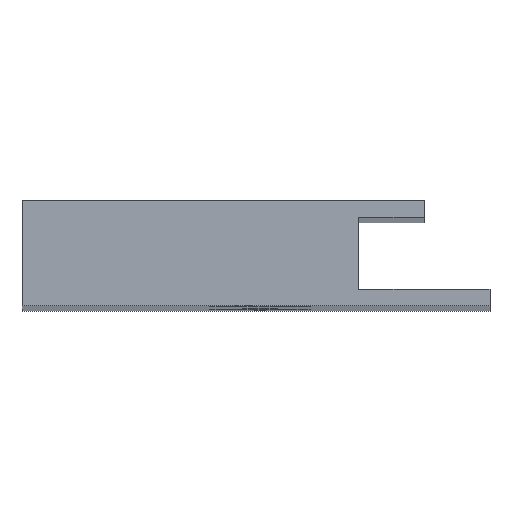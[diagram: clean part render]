
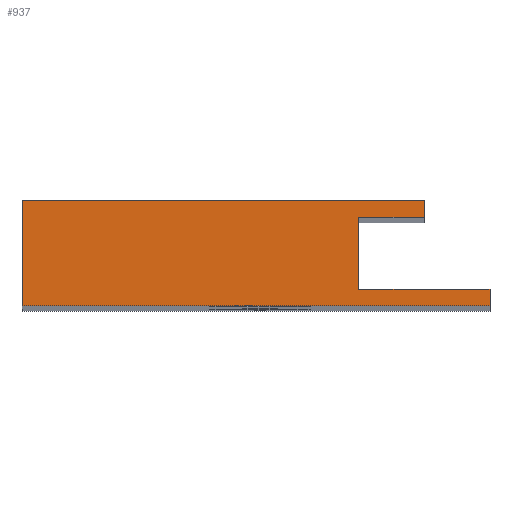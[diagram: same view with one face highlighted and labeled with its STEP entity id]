
A CAD part, top view. The second image highlights one B-rep face of the part: STEP entity #937.
In plain terms, the highlighted planar face has unit normal (0, 0, 1).
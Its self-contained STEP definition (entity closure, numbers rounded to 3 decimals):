
#41=DIRECTION('',(-1.,0.,0.));
#42=VECTOR('',#41,24.5);
#43=CARTESIAN_POINT('',(10.,2.,200.));
#44=LINE('',#43,#42);
#141=DIRECTION('',(1.,0.,0.));
#142=VECTOR('',#141,28.5);
#143=CARTESIAN_POINT('',(-14.5,-4.4,200.));
#144=LINE('',#143,#142);
#225=DIRECTION('',(0.,-1.,0.));
#226=VECTOR('',#225,6.4);
#227=CARTESIAN_POINT('',(-14.5,2.,200.));
#228=LINE('',#227,#226);
#229=DIRECTION('',(0.,1.,0.));
#230=VECTOR('',#229,1.);
#231=CARTESIAN_POINT('',(10.,1.,200.));
#232=LINE('',#231,#230);
#233=DIRECTION('',(1.,0.,0.));
#234=VECTOR('',#233,4.);
#235=CARTESIAN_POINT('',(6.,1.,200.));
#236=LINE('',#235,#234);
#237=DIRECTION('',(0.,1.,0.));
#238=VECTOR('',#237,4.4);
#239=CARTESIAN_POINT('',(6.,-3.4,200.));
#240=LINE('',#239,#238);
#241=DIRECTION('',(-1.,0.,0.));
#242=VECTOR('',#241,4.);
#243=CARTESIAN_POINT('',(10.,-3.4,200.));
#244=LINE('',#243,#242);
#245=DIRECTION('',(-1.,0.,0.));
#246=VECTOR('',#245,4.);
#247=CARTESIAN_POINT('',(14.,-3.4,200.));
#248=LINE('',#247,#246);
#249=DIRECTION('',(0.,1.,0.));
#250=VECTOR('',#249,1.);
#251=CARTESIAN_POINT('',(14.,-4.4,200.));
#252=LINE('',#251,#250);
#533=CARTESIAN_POINT('',(-14.5,2.,200.));
#534=CARTESIAN_POINT('',(-14.5,-4.4,200.));
#535=VERTEX_POINT('',#533);
#536=VERTEX_POINT('',#534);
#537=CARTESIAN_POINT('',(10.,-3.4,200.));
#538=CARTESIAN_POINT('',(6.,-3.4,200.));
#539=VERTEX_POINT('',#537);
#540=VERTEX_POINT('',#538);
#583=CARTESIAN_POINT('',(14.,-4.4,200.));
#584=CARTESIAN_POINT('',(14.,-3.4,200.));
#585=VERTEX_POINT('',#583);
#586=VERTEX_POINT('',#584);
#587=CARTESIAN_POINT('',(6.,1.,200.));
#588=VERTEX_POINT('',#587);
#589=CARTESIAN_POINT('',(10.,1.,200.));
#590=VERTEX_POINT('',#589);
#591=CARTESIAN_POINT('',(10.,2.,200.));
#592=VERTEX_POINT('',#591);
#921=CARTESIAN_POINT('',(0.,0.,200.));
#922=DIRECTION('',(0.,0.,1.));
#923=DIRECTION('',(1.,0.,0.));
#924=AXIS2_PLACEMENT_3D('',#921,#922,#923);
#925=PLANE('',#924);
#926=ORIENTED_EDGE('',*,*,#723,.F.);
#927=ORIENTED_EDGE('',*,*,#738,.F.);
#928=ORIENTED_EDGE('',*,*,#792,.F.);
#929=ORIENTED_EDGE('',*,*,#806,.F.);
#930=ORIENTED_EDGE('',*,*,#820,.F.);
#931=ORIENTED_EDGE('',*,*,#834,.F.);
#932=ORIENTED_EDGE('',*,*,#848,.F.);
#933=ORIENTED_EDGE('',*,*,#862,.F.);
#934=ORIENTED_EDGE('',*,*,#873,.F.);
#935=EDGE_LOOP('',(#926,#927,#928,#929,#930,#931,#932,#933,#934));
#936=FACE_OUTER_BOUND('',#935,.F.);
#937=ADVANCED_FACE('',(#936),#925,.T.);
#723=EDGE_CURVE('',#535,#536,#228,.T.);
#738=EDGE_CURVE('',#592,#535,#44,.T.);
#792=EDGE_CURVE('',#590,#592,#232,.T.);
#806=EDGE_CURVE('',#588,#590,#236,.T.);
#820=EDGE_CURVE('',#540,#588,#240,.T.);
#834=EDGE_CURVE('',#539,#540,#244,.T.);
#848=EDGE_CURVE('',#586,#539,#248,.T.);
#862=EDGE_CURVE('',#585,#586,#252,.T.);
#873=EDGE_CURVE('',#536,#585,#144,.T.);
